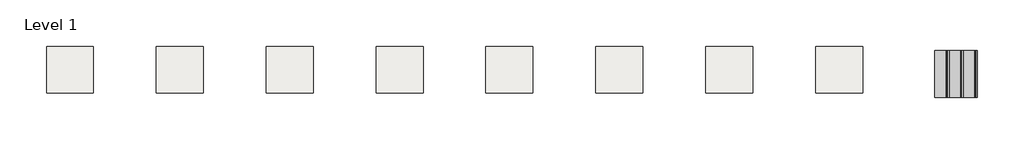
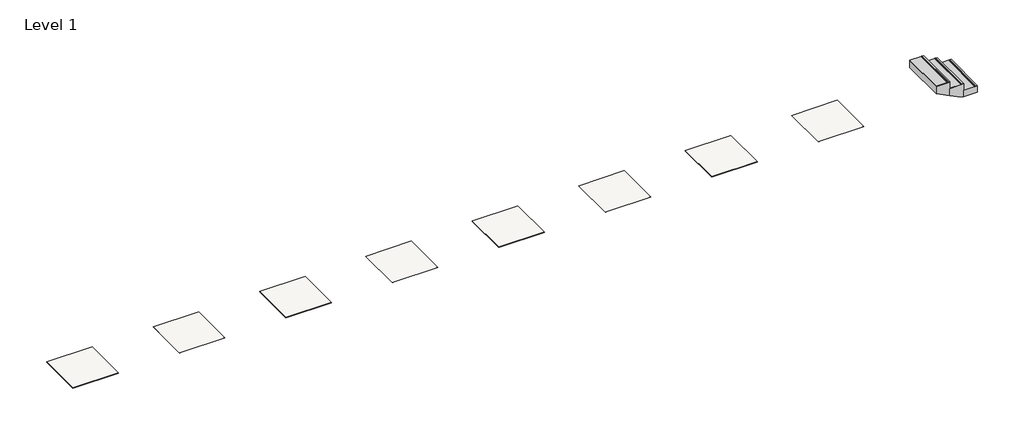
# One storey: 8 coverings, 1 stair flight.
"""IFC4 building model written with IfcOpenShell, lengths in millimetres."""

from ifc_helpers import new_model, si_unit, frame, origin, place, context, project, spatial, polyline, outline, extrude, faceted_brep, element, save

model = new_model("IFC4")

# Units and contexts
model_context = context("Model", 3, world=origin())
ifc_project = project(units=[si_unit("LENGTHUNIT", "METRE", prefix="MILLI")], contexts=[model_context])

# Site, building, storey
site = spatial("IfcSite", under=ifc_project)
building = spatial("IfcBuilding", under=site)
storey = spatial("IfcBuildingStorey", under=building, Name="Level 1", Elevation=0.0)

# Coverings
placement = place(None, origin())
element("IfcCovering", 1, ObjectType="REVIGRÉS-PIGMENTO-DG-30X30-NAT-AREIA", at=placement, inside=storey, context=model_context, shape_type="SweptSolid", body=[
    extrude(outline(polyline([(2414.5304183, -1650.5906659), (1414.5304183, -1650.5906659), (1414.5304183, -650.5906659), (2414.5304183, -650.5906659), (2414.5304183, -1650.5906659)])), frame((0.0, 0.0, -7.0), z_axis=(0.0, 0.0, 1.0), x_axis=(1.0, 0.0, 0.0)), (0.0, 0.0, 1.0), 7.0),
])
element("IfcCovering", 2, ObjectType="REVIGRÉS-PIGMENTO-DG-30X30-ANTISLIPNAT-AREIA", at=placement, inside=storey, context=model_context, shape_type="SweptSolid", body=[
    extrude(outline(polyline([(4754.5304183, -1650.5906659), (3754.5304183, -1650.5906659), (3754.5304183, -650.5906659), (4754.5304183, -650.5906659), (4754.5304183, -1650.5906659)])), frame((0.0, 0.0, -7.0), z_axis=(0.0, 0.0, 1.0), x_axis=(1.0, 0.0, 0.0)), (0.0, 0.0, 1.0), 7.0),
])
element("IfcCovering", 3, ObjectType="REVIGRÉS-PIGMENTO-DG-30X30-NAT-CHUMBO", at=placement, inside=storey, context=model_context, shape_type="SweptSolid", body=[
    extrude(outline(polyline([(7094.5304183, -1650.5906659), (6094.5304183, -1650.5906659), (6094.5304183, -650.5906659), (7094.5304183, -650.5906659), (7094.5304183, -1650.5906659)])), frame((0.0, 0.0, -7.0), z_axis=(0.0, 0.0, 1.0), x_axis=(1.0, 0.0, 0.0)), (0.0, 0.0, 1.0), 7.0),
])
element("IfcCovering", 4, ObjectType="REVIGRÉS-PIGMENTO-DG-30X30-ANTISLIPNAT-CHUMBO", at=placement, inside=storey, context=model_context, shape_type="SweptSolid", body=[
    extrude(outline(polyline([(9434.5304183, -1650.5906659), (8434.5304183, -1650.5906659), (8434.5304183, -650.5906659), (9434.5304183, -650.5906659), (9434.5304183, -1650.5906659)])), frame((0.0, 0.0, -7.0), z_axis=(0.0, 0.0, 1.0), x_axis=(1.0, 0.0, 0.0)), (0.0, 0.0, 1.0), 7.0),
])
element("IfcCovering", 5, ObjectType="REVIGRÉS-PIGMENTO-DG-30X30-NAT-GRAFITE", at=placement, inside=storey, context=model_context, shape_type="SweptSolid", body=[
    extrude(outline(polyline([(11774.5304183, -1650.5906659), (10774.5304183, -1650.5906659), (10774.5304183, -650.5906659), (11774.5304183, -650.5906659), (11774.5304183, -1650.5906659)])), frame((0.0, 0.0, -7.0), z_axis=(0.0, 0.0, 1.0), x_axis=(1.0, 0.0, 0.0)), (0.0, 0.0, 1.0), 7.0),
])
element("IfcCovering", 6, ObjectType="REVIGRÉS-PIGMENTO-DG-30X30-ANTISLIPNAT-GRAFITE", at=placement, inside=storey, context=model_context, shape_type="SweptSolid", body=[
    extrude(outline(polyline([(14114.5304183, -1650.5906659), (13114.5304183, -1650.5906659), (13114.5304183, -650.5906659), (14114.5304183, -650.5906659), (14114.5304183, -1650.5906659)])), frame((0.0, 0.0, -7.0), z_axis=(0.0, 0.0, 1.0), x_axis=(1.0, 0.0, 0.0)), (0.0, 0.0, 1.0), 7.0),
])
element("IfcCovering", 7, ObjectType="REVIGRÉS-PIGMENTO-DG-30X30-NAT-LUNA", at=placement, inside=storey, context=model_context, shape_type="SweptSolid", body=[
    extrude(outline(polyline([(16454.5304183, -1650.5906659), (15454.5304183, -1650.5906659), (15454.5304183, -650.5906659), (16454.5304183, -650.5906659), (16454.5304183, -1650.5906659)])), frame((0.0, 0.0, -7.0), z_axis=(0.0, 0.0, 1.0), x_axis=(1.0, 0.0, 0.0)), (0.0, 0.0, 1.0), 7.0),
])
element("IfcCovering", 8, ObjectType="REVIGRÉS-PIGMENTO-DG-30X30-ANTISLIPNAT-LUNA", at=placement, inside=storey, context=model_context, shape_type="SweptSolid", body=[
    extrude(outline(polyline([(18794.5304183, -1650.5906659), (17794.5304183, -1650.5906659), (17794.5304183, -650.5906659), (18794.5304183, -650.5906659), (18794.5304183, -1650.5906659)])), frame((0.0, 0.0, -7.0), z_axis=(0.0, 0.0, 1.0), x_axis=(1.0, 0.0, 0.0)), (0.0, 0.0, 1.0), 7.0),
])

# Stair flight
element("IfcStairFlight", 9, ObjectType="REVIGRÉS-PIGMENTO-DG-30X30", at=placement, inside=storey, context=model_context, shape_type="SolidModel", body=[
    faceted_brep([(20939.330341, -1741.0804215, 143.0), (21242.330341, -1741.0804215, 143.0), (21242.330341, -741.0804215, 143.0), (20939.330341, -741.0804215, 143.0), (20939.330341, -1741.0804215, 0.0), (21242.330341, -1741.0804215, 0.0), (21242.330341, -741.0804215, 0.0), (20939.330341, -741.0804215, 0.0), (20636.330341, -1741.0804215, 293.0), (20939.330341, -1741.0804215, 293.0), (20939.330341, -741.0804215, 293.0), (20636.330341, -741.0804215, 293.0), (20636.330341, -1741.0804215, 125.6256732), (20890.0942009, -1741.0804215, 0.0), (20890.0942009, -741.0804215, 0.0), (20636.330341, -741.0804215, 125.6256732), (20333.330341, -1741.0804215, 443.0), (20636.330341, -1741.0804215, 443.0), (20636.330341, -741.0804215, 443.0), (20333.330341, -741.0804215, 443.0), (20333.330341, -1741.0804215, 275.6256732), (20333.330341, -741.0804215, 275.6256732)], [[[0, 1, 2, 3]], [[1, 0, 4, 5]], [[2, 1, 5, 6]], [[3, 2, 6, 7]], [[8, 9, 10, 11]], [[4, 0, 9, 8, 12, 13]], [[0, 3, 10, 9]], [[3, 7, 14, 15, 11, 10]], [[16, 17, 18, 19]], [[17, 16, 20, 12, 8]], [[8, 11, 18, 17]], [[19, 18, 11, 15, 21]], [[16, 19, 21, 20]], [[5, 4, 13, 14, 7, 6]], [[14, 13, 12, 20, 21, 15]]]),
    extrude(outline(polyline([(150.0, 21212.330341), (149.0, 21212.330341), (149.0, 21207.330341), (150.0, 21207.330341), (150.0, 21197.330341), (149.0, 21197.330341), (149.0, 21192.330341), (150.0, 21192.330341), (150.0, 21182.330341), (149.0, 21182.330341), (149.0, 21177.330341), (150.0, 21177.330341), (150.0, 20939.330341), (143.0, 20939.330341), (143.0, 21242.330341), (150.0, 21242.330341), (150.0, 21212.330341)])), frame((0.0, -1741.0804215, 0.0), z_axis=(0.0, 1.0, 0.0), x_axis=(0.0, 0.0, 1.0)), (0.0, 0.0, 1.0), 1000.0),
    extrude(outline(polyline([(300.0, 20909.330341), (299.0, 20909.330341), (299.0, 20904.330341), (300.0, 20904.330341), (300.0, 20894.330341), (299.0, 20894.330341), (299.0, 20889.330341), (300.0, 20889.330341), (300.0, 20879.330341), (299.0, 20879.330341), (299.0, 20874.330341), (300.0, 20874.330341), (300.0, 20636.330341), (293.0, 20636.330341), (293.0, 20939.330341), (300.0, 20939.330341), (300.0, 20909.330341)])), frame((0.0, -1741.0804215, 0.0), z_axis=(0.0, 1.0, 0.0), x_axis=(0.0, 0.0, 1.0)), (0.0, 0.0, 1.0), 1000.0),
    extrude(outline(polyline([(450.0, 20606.330341), (449.0, 20606.330341), (449.0, 20601.330341), (450.0, 20601.330341), (450.0, 20591.330341), (449.0, 20591.330341), (449.0, 20586.330341), (450.0, 20586.330341), (450.0, 20576.330341), (449.0, 20576.330341), (449.0, 20571.330341), (450.0, 20571.330341), (450.0, 20333.330341), (443.0, 20333.330341), (443.0, 20636.330341), (450.0, 20636.330341), (450.0, 20606.330341)])), frame((0.0, -1741.0804215, 0.0), z_axis=(0.0, 1.0, 0.0), x_axis=(0.0, 0.0, 1.0)), (0.0, 0.0, 1.0), 1000.0),
])

save(model, "model.ifc")
